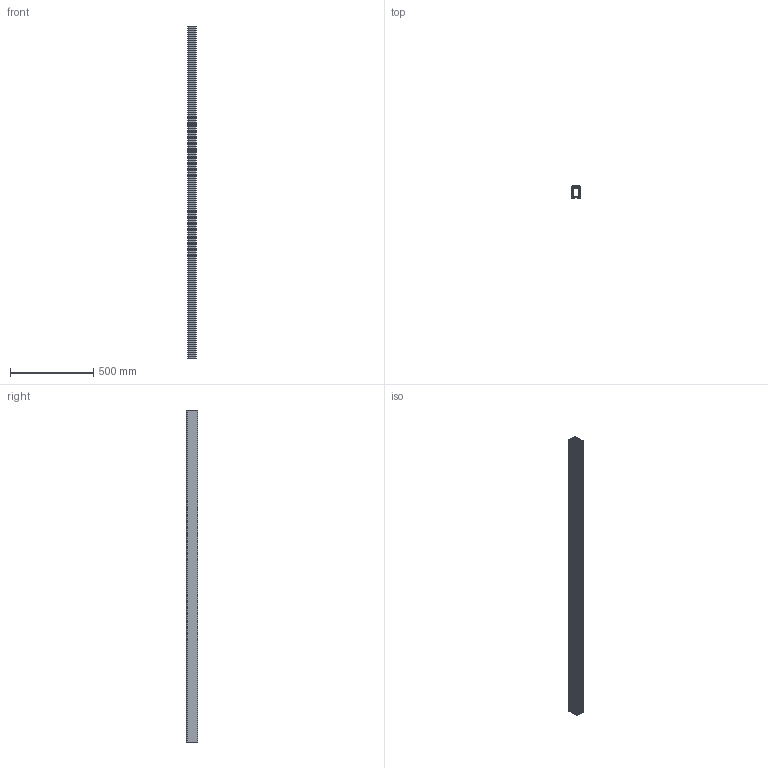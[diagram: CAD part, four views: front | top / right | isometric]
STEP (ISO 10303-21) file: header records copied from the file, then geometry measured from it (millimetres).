
FILE_DESCRIPTION (( 'STEP AP203' ), '1' );
FILE_NAME ('900.500.040.2000.STEP', '2018-03-09T13:05:02', ( '' ), ( '' ), 'SwSTEP 2.0', 'SolidWorks 2016', '' );
FILE_SCHEMA (( 'CONFIG_CONTROL_DESIGN' ));
Length unit declared in the file: millimetre
Products named in the file (1): 900.500.040.2000
Bounding box: 54 x 69.8 x 2000 mm (x, y, z)
Volume: 1301206.2 mm3; surface area: 2457863.4 mm2
Topology: 5 solids, 5 shells, 403 faces, 1179 edges, 786 vertices
Faces by surface type: plane 208, cylinder 195
Entity records: 13608 total; most frequent: DIRECTION 2377, CARTESIAN_POINT 2369, ORIENTED_EDGE 2358, EDGE_CURVE 1179, AXIS2_PLACEMENT_3D 794, LINE 789, VECTOR 789, VERTEX_POINT 786
